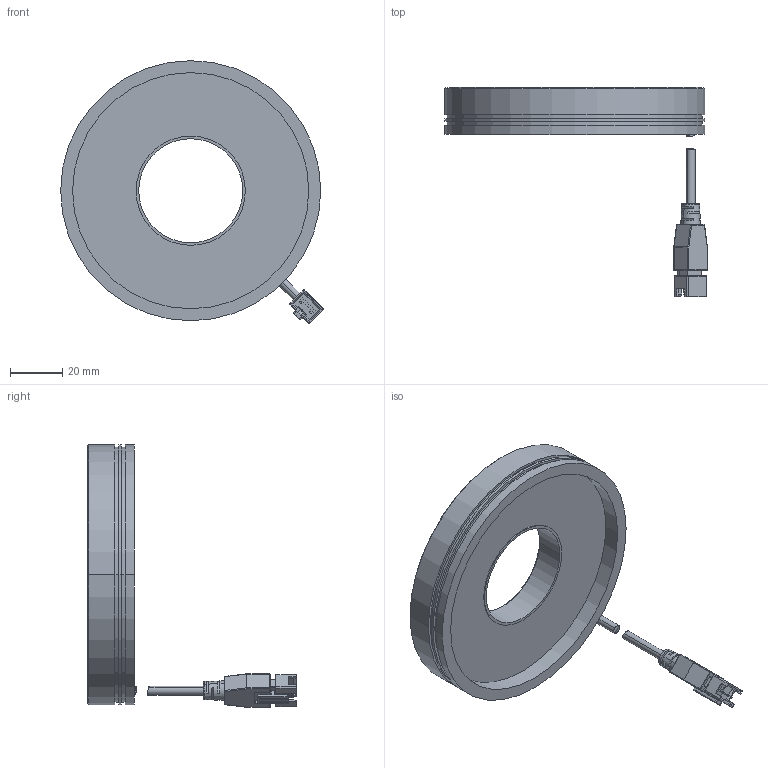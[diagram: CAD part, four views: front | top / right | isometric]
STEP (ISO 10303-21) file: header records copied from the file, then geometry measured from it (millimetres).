
FILE_DESCRIPTION((''),'2;1');
FILE_NAME('MV-LRDS-100-90_ASM','2019-09-19T',('rs-zhongwm'),(''),'PRO/ENGINEER BY PARAMETRIC TECHNOLOGY CORPORATION, 2010100','PRO/ENGINEER BY PARAMETRIC TECHNOLOGY CORPORATION, 2010100','');
FILE_SCHEMA(('CONFIG_CONTROL_DESIGN'));
Length unit declared in the file: millimetre
Products named in the file (5): PRT0001_2; PRT0036; PRT0037; ASM0022_ASM; MV-LRDS-100-90_ASM
Assembly tree (4 placements, depth 3):
  MV-LRDS-100-90_ASM
    PRT0001_2
    ASM0022_ASM
      PRT0036
      PRT0037
Bounding box: 101 x 80.3 x 101 mm (x, y, z)
Volume: 86727.2 mm3; surface area: 26154.4 mm2
Topology: 3 solids, 7 shells, 278 faces, 702 edges, 437 vertices
Faces by surface type: plane 139, cylinder 97, cone 14, torus 12, bspline 8, sphere 8
Entity records: 8615 total; most frequent: CARTESIAN_POINT 1815, DIRECTION 1438, ORIENTED_EDGE 1356, EDGE_CURVE 686, AXIS2_PLACEMENT_3D 515, VERTEX_POINT 437, VECTOR 408, LINE 408
